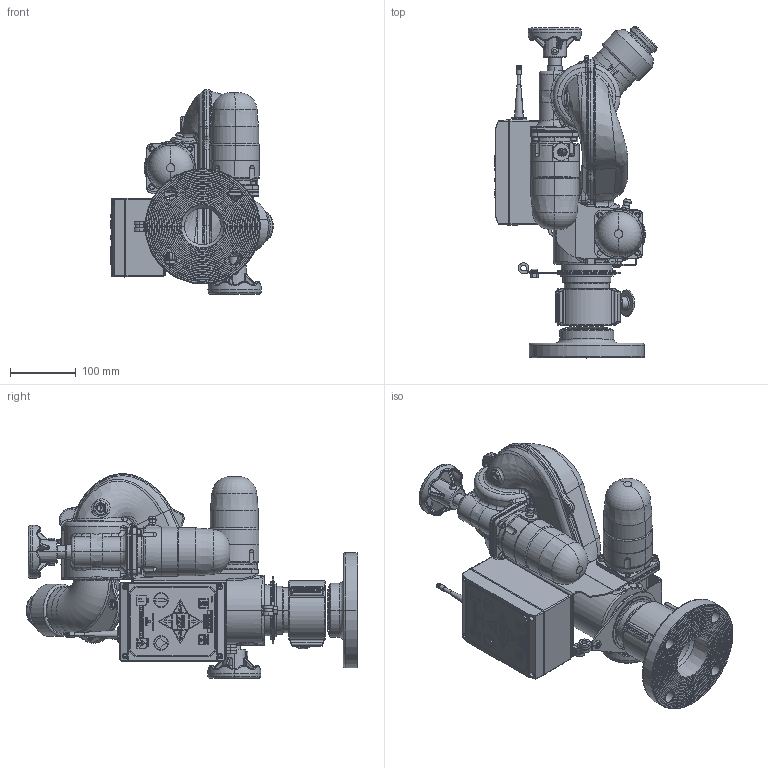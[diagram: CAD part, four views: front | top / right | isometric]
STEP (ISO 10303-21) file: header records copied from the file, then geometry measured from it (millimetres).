
FILE_DESCRIPTION (( 'STEP AP203' ), '1' );
FILE_NAME ('Y2-E64A_45_Up.STEP', '2014-07-03T15:52:03', ( '' ), ( '' ), 'SwSTEP 2.0', 'SolidWorks 2014', '' );
FILE_SCHEMA (( 'CONFIG_CONTROL_DESIGN' ));
Products named in the file (1): Y2-E64A_45_Up
Bounding box: 247.17 x 504.97 x 311.38 mm (x, y, z)
Surface area: 667458.5 mm2 (no closed solid volume)
Topology: 0 solids, 219 shells, 2344 faces, 10238 edges, 8001 vertices
Faces by surface type: plane 745, cylinder 533, torus 410, bspline 402, cone 225, sphere 29
Entity records: 181065 total; most frequent: CARTESIAN_POINT 104810, ORIENTED_EDGE 14752, DIRECTION 13757, EDGE_CURVE 10228, VERTEX_POINT 7996, LINE 4761, VECTOR 4761, AXIS2_PLACEMENT_3D 4498
